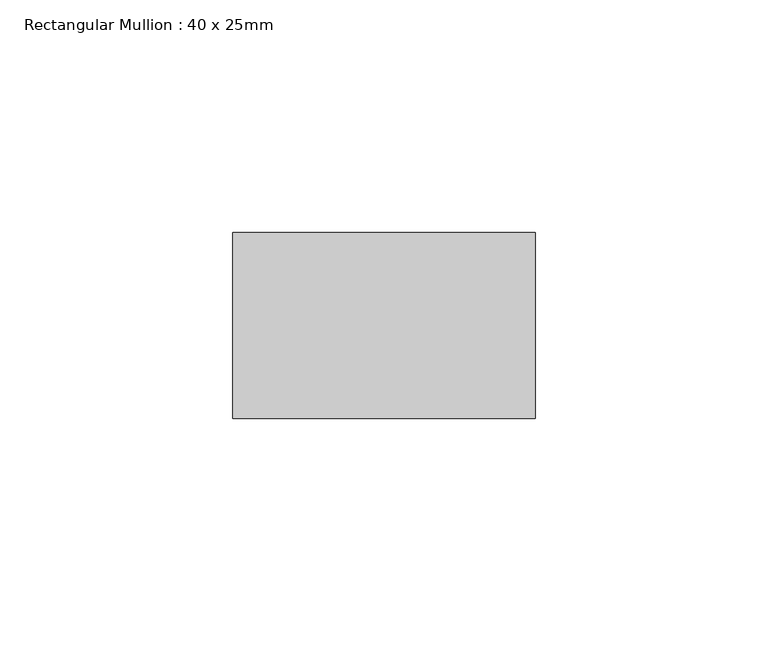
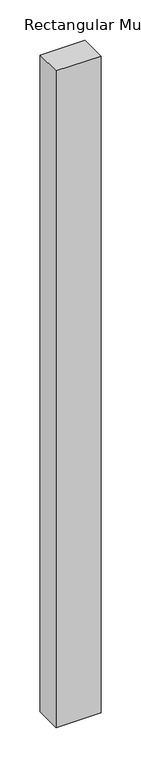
"""IFC4 building model written with IfcOpenShell, lengths in millimetres: member geometry, Rectangular Mullion : 40 x 25mm."""

import ifcopenshell
import ifcopenshell.guid

model = None  # the IFC model being written
_history = None  # IfcOwnerHistory: only IFC2X3 demands one
_inside = {}  # id of a spatial element -> (the spatial element, [elements in it])
_under = {}  # id of a project, library or spatial element -> (it, [spatial elements below it])
_declared = {}  # id of a project -> (the project, [libraries it declares])
_typed = {}  # id of a type object -> (the type object, [elements of that type])
_made_of = {}  # id of a material, layer set ... -> (it, [elements and type objects made of it])


def new_model(schema):
    """Start an empty IFC model of exactly this schema.

    Asked for "IFC4X3", IfcOpenShell would pick the latest addendum, in which some entities
    have other attributes; the version numbers below select the first issue.
    IFC2X3 requires an IfcOwnerHistory on every rooted entity: one is made here for all.
    """
    global model, _history
    if schema == "IFC4X3":
        model = ifcopenshell.file(schema_version=(4, 3, 0, 0))
    else:
        model = ifcopenshell.file(schema=schema)
    _inside.clear()
    _under.clear()
    _declared.clear()
    _typed.clear()
    _made_of.clear()
    _history = None
    if model.schema == "IFC2X3":
        org = make("IfcOrganization", Name="unknown")
        user = make(
            "IfcPersonAndOrganization",
            ThePerson=make("IfcPerson", FamilyName="unknown"),
            TheOrganization=org,
        )
        app = make(
            "IfcApplication",
            ApplicationDeveloper=org,
            Version="unknown",
            ApplicationFullName="unknown",
            ApplicationIdentifier="unknown",
        )
        _history = make(
            "IfcOwnerHistory",
            OwningUser=user,
            OwningApplication=app,
            ChangeAction="ADDED",
            CreationDate=0,
        )
    return model


def make(cls, **values):
    """One entity of the class cls with the attributes given. An attribute that is None is left unset."""
    return model.create_entity(
        cls, **{name: value for name, value in values.items() if value is not None}
    )


def rooted(cls, **values):
    """An entity with a GlobalId (a new one), such as an element, a storey or a relation."""
    return make(cls, GlobalId=ifcopenshell.guid.new(), OwnerHistory=_history, **values)


def si_unit(unit_type, name, prefix=None):
    """IfcSIUnit, for example si_unit("LENGTHUNIT", "METRE", prefix="MILLI")."""
    return make("IfcSIUnit", UnitType=unit_type, Prefix=prefix, Name=name)


def assignment(units):
    """IfcUnitAssignment: the units of a project."""
    return None if units is None else make("IfcUnitAssignment", Units=units)


def point(xyz):
    """IfcCartesianPoint."""
    return None if xyz is None else make("IfcCartesianPoint", Coordinates=xyz)


def direction(xyz):
    """IfcDirection."""
    return None if xyz is None else make("IfcDirection", DirectionRatios=xyz)


def frame(location, z_axis=None, x_axis=None):
    """IfcAxis2Placement3D, a coordinate frame: its origin and axes. An axis left out is left unset."""
    return make(
        "IfcAxis2Placement3D",
        Location=point(location),
        Axis=direction(z_axis),
        RefDirection=direction(x_axis),
    )


def origin():
    """The frame at (0, 0, 0) with its axes left unset."""
    return frame((0.0, 0.0, 0.0))


def place(relative_to, where):
    """IfcLocalPlacement: puts the frame where relative to a parent placement (None: the world)."""
    return make(
        "IfcLocalPlacement", PlacementRelTo=relative_to, RelativePlacement=where
    )


def context(
    kind, dimensions, precision=None, world=None, true_north=None, identifier=None
):
    """IfcGeometricRepresentationContext, for example the 3D "Model" context."""
    return make(
        "IfcGeometricRepresentationContext",
        ContextIdentifier=identifier,
        ContextType=kind,
        CoordinateSpaceDimension=dimensions,
        Precision=precision,
        WorldCoordinateSystem=world,
        TrueNorth=true_north,
    )


def project(units=None, contexts=None):
    """IfcProject with its units and contexts."""
    return rooted(
        "IfcProject",
        Name="project",
        RepresentationContexts=contexts,
        UnitsInContext=assignment(units),
    )


def spatial(cls, under=None, at=None, **own):
    """A site, building, storey or space (cls), placed at a placement, below another one or the project."""
    s = rooted(cls, ObjectPlacement=at, **own)
    if under is not None:
        _under.setdefault(under.id(), (under, []))[1].append(s)
    return s


def polyline(points):
    """IfcPolyline through the points."""
    return make("IfcPolyline", Points=[point(p) for p in points])


def outline(outer, holes=None, kind="AREA"):
    """IfcArbitraryClosedProfileDef: a profile drawn as a closed curve; with holes, ...WithVoids."""
    if holes is None:
        return make("IfcArbitraryClosedProfileDef", ProfileType=kind, OuterCurve=outer)
    return make(
        "IfcArbitraryProfileDefWithVoids",
        ProfileType=kind,
        OuterCurve=outer,
        InnerCurves=holes,
    )


def extrude(swept, where, along, depth):
    """IfcExtrudedAreaSolid: the profile swept, set in the frame where, extruded along a direction by depth."""
    return make(
        "IfcExtrudedAreaSolid",
        SweptArea=swept,
        Position=where,
        ExtrudedDirection=direction(along),
        Depth=depth,
    )


def shape(context_of_items, identifier, shape_type, items):
    """IfcShapeRepresentation: the items that make up one representation, for example the "Body"."""
    return make(
        "IfcShapeRepresentation",
        ContextOfItems=context_of_items,
        RepresentationIdentifier=identifier,
        RepresentationType=shape_type,
        Items=items,
    )


def source(mapping_origin, context_of_items, identifier, shape_type, items):
    """IfcRepresentationMap: a shape defined once, which mapped items show again and again."""
    return make(
        "IfcRepresentationMap",
        MappingOrigin=mapping_origin,
        MappedRepresentation=shape(context_of_items, identifier, shape_type, items),
    )


def transform(
    local_origin,
    x_axis=None,
    y_axis=None,
    z_axis=None,
    scale=None,
    scale2=None,
    scale3=None,
    uniform=True,
):
    """IfcCartesianTransformationOperator3D, or its non-uniform kind. x_axis, y_axis, z_axis: its Axis1, 2, 3."""
    if uniform:
        return make(
            "IfcCartesianTransformationOperator3D",
            Axis1=direction(x_axis),
            Axis2=direction(y_axis),
            LocalOrigin=point(local_origin),
            Scale=scale,
            Axis3=direction(z_axis),
        )
    return make(
        "IfcCartesianTransformationOperator3DnonUniform",
        Axis1=direction(x_axis),
        Axis2=direction(y_axis),
        LocalOrigin=point(local_origin),
        Scale=scale,
        Axis3=direction(z_axis),
        Scale2=scale2,
        Scale3=scale3,
    )


def mapped(mapping_source, mapping_target):
    """IfcMappedItem: shows the shape of a source again, moved by a transform."""
    return make(
        "IfcMappedItem", MappingSource=mapping_source, MappingTarget=mapping_target
    )


def made_of(thing, what):
    """Note that an element or type object is made of a material, layer set ...; save() writes the relation."""
    if what is not None:
        _made_of.setdefault(what.id(), (what, []))[1].append(thing)
    return thing


def element(
    cls,
    number,
    at=None,
    inside=None,
    cuts=None,
    type_object=None,
    material=None,
    context=None,
    identifier="Body",
    shape_type=None,
    held_by="IfcProductDefinitionShape",
    body=None,
    shapes=None,
    **own,
):
    """One element of the class cls, such as IfcWall. Its Tag is "e" and its number.

    at: its placement. inside: the storey or other place that contains it. cuts: it is an
    opening in that element (IfcRelVoidsElement). A single representation is given by context,
    identifier, shape_type and body (its items); several are given by shapes. held_by: the class
    of the entity that holds the representations. save() writes the other relations.
    """
    e = rooted(cls, Tag="e%d" % number, ObjectPlacement=at, **own)
    if body is not None:
        shapes = [shape(context, identifier, shape_type, body)]
    if shapes is not None:
        e.Representation = make(held_by, Representations=shapes)
    if inside is not None:
        _inside.setdefault(inside.id(), (inside, []))[1].append(e)
    if cuts is not None:
        rooted(
            "IfcRelVoidsElement", RelatingBuildingElement=cuts, RelatedOpeningElement=e
        )
    if type_object is not None:
        _typed.setdefault(type_object.id(), (type_object, []))[1].append(e)
    return made_of(e, material)


def aggregate(whole, parts):
    """IfcRelAggregates: a whole, such as a stair, and the parts it consists of."""
    return rooted("IfcRelAggregates", RelatingObject=whole, RelatedObjects=parts)


def save(model, path):
    """Write the relations noted so far, then the file.

    IfcRelAggregates (storeys below a building ...), IfcRelContainedInSpatialStructure (elements
    in a storey), IfcRelDefinesByType, IfcRelAssociatesMaterial and IfcRelDeclares: one each for
    every whole, place, type object, material and project.
    """
    for whole, parts in _under.values():
        aggregate(whole, parts)
    for where, things in _inside.values():
        rooted(
            "IfcRelContainedInSpatialStructure",
            RelatedElements=things,
            RelatingStructure=where,
        )
    for kind, things in _typed.values():
        rooted("IfcRelDefinesByType", RelatedObjects=things, RelatingType=kind)
    for what, things in _made_of.values():
        rooted("IfcRelAssociatesMaterial", RelatedObjects=things, RelatingMaterial=what)
    for by, libraries in _declared.values():
        rooted("IfcRelDeclares", RelatingContext=by, RelatedDefinitions=libraries)
    model.write(path)


def rectangular_mullion_40_x_25mm_71da6f95(model_context):
    return source(origin(), model_context, "Body", "SweptSolid", [
        extrude(outline(polyline([(40.0, -20.0), (40.0, -60.0), (-25.0, -60.0), (-25.0, -20.0), (40.0, -20.0)])), frame((0.0, 0.0, -1000.0), z_axis=(0.0, 0.0, 1.0), x_axis=(1.0, 0.0, 0.0)), (0.0, 0.0, 1.0), 1000.0),
    ])


if __name__ == "__main__":
    model = new_model("IFC4")
    model_context = context("Model", 3, world=origin())
    ifc_project = project(units=[si_unit("LENGTHUNIT", "METRE", prefix="MILLI")], contexts=[model_context])
    site = spatial("IfcSite", under=ifc_project)
    building = spatial("IfcBuilding", under=site)
    placement = place(None, origin())
    rectangular_mullion_40_x_25mm_shape = rectangular_mullion_40_x_25mm_71da6f95(model_context)
    element("IfcMember", 1, ObjectType="Rectangular Mullion : 40 x 25mm", at=placement, inside=building, context=model_context, shape_type="MappedRepresentation", body=[
        mapped(rectangular_mullion_40_x_25mm_shape, transform((0.0, 0.0, 0.0), x_axis=(1.0, 0.0, 0.0), y_axis=(0.0, 1.0, 0.0), z_axis=(0.0, 0.0, 1.0))),
    ])
    save(model, "model.ifc")
